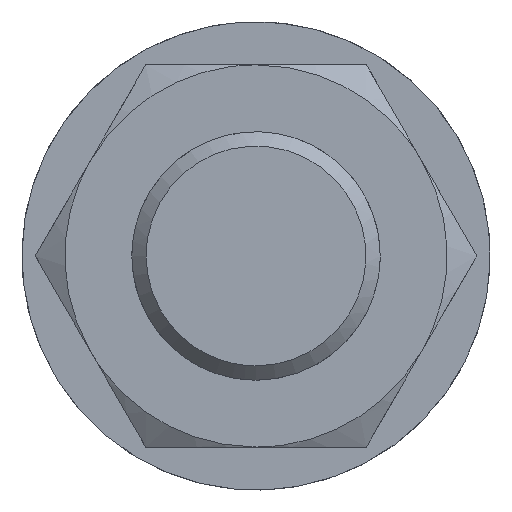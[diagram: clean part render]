
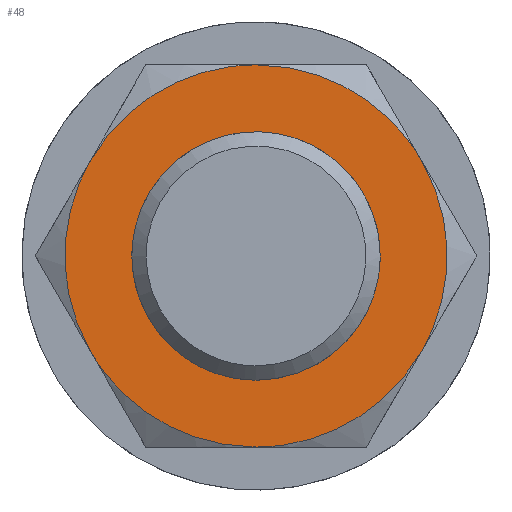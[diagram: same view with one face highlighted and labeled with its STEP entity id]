
A CAD part, left-side view. The second image highlights one B-rep face of the part: STEP entity #48.
In plain terms, the highlighted planar face has unit normal (-1, 0, 0).
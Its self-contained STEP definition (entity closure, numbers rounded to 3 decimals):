
#39=FACE_BOUND('',#135,.T.);
#48=ADVANCED_FACE('',(#90,#39),#655,.T.);
#90=FACE_OUTER_BOUND('',#134,.T.);
#134=EDGE_LOOP('',(#198,#199,#200,#201,#202,#203));
#135=EDGE_LOOP('',(#204,#205));
#198=ORIENTED_EDGE('',*,*,#399,.F.);
#199=ORIENTED_EDGE('',*,*,#401,.F.);
#200=ORIENTED_EDGE('',*,*,#402,.F.);
#201=ORIENTED_EDGE('',*,*,#400,.F.);
#202=ORIENTED_EDGE('',*,*,#398,.F.);
#203=ORIENTED_EDGE('',*,*,#397,.F.);
#204=ORIENTED_EDGE('',*,*,#387,.F.);
#205=ORIENTED_EDGE('',*,*,#385,.F.);
#385=EDGE_CURVE('',#600,#590,#510,.T.);
#387=EDGE_CURVE('',#590,#600,#511,.T.);
#397=EDGE_CURVE('',#594,#595,#519,.T.);
#398=EDGE_CURVE('',#595,#599,#520,.T.);
#399=EDGE_CURVE('',#596,#594,#521,.T.);
#400=EDGE_CURVE('',#599,#598,#522,.T.);
#401=EDGE_CURVE('',#597,#596,#523,.T.);
#402=EDGE_CURVE('',#598,#597,#524,.T.);
#510=(
BOUNDED_CURVE()
B_SPLINE_CURVE(2,(#1158,#1159,#1160,#1161,#1162),.UNSPECIFIED.,.F.,.F.)
B_SPLINE_CURVE_WITH_KNOTS((3,2,3),(81.681,122.522,163.363),
 .UNSPECIFIED.)
CURVE()
GEOMETRIC_REPRESENTATION_ITEM()
RATIONAL_B_SPLINE_CURVE((1.,0.707,1.,0.707,1.))
REPRESENTATION_ITEM('')
);
#511=(
BOUNDED_CURVE()
B_SPLINE_CURVE(2,(#1165,#1166,#1167,#1168,#1169),.UNSPECIFIED.,.F.,.F.)
B_SPLINE_CURVE_WITH_KNOTS((3,2,3),(0.,40.841,81.681),
 .UNSPECIFIED.)
CURVE()
GEOMETRIC_REPRESENTATION_ITEM()
RATIONAL_B_SPLINE_CURVE((1.,0.707,1.,0.707,1.))
REPRESENTATION_ITEM('')
);
#519=(
BOUNDED_CURVE()
B_SPLINE_CURVE(2,(#1207,#1208,#1209),.UNSPECIFIED.,.F.,.F.)
B_SPLINE_CURVE_WITH_KNOTS((3,3),(0.,41.888),.UNSPECIFIED.)
CURVE()
GEOMETRIC_REPRESENTATION_ITEM()
RATIONAL_B_SPLINE_CURVE((1.,0.866,1.))
REPRESENTATION_ITEM('')
);
#520=(
BOUNDED_CURVE()
B_SPLINE_CURVE(2,(#1210,#1211,#1212),.UNSPECIFIED.,.F.,.F.)
B_SPLINE_CURVE_WITH_KNOTS((3,3),(0.,41.888),.UNSPECIFIED.)
CURVE()
GEOMETRIC_REPRESENTATION_ITEM()
RATIONAL_B_SPLINE_CURVE((1.,0.866,1.))
REPRESENTATION_ITEM('')
);
#521=(
BOUNDED_CURVE()
B_SPLINE_CURVE(2,(#1213,#1214,#1215),.UNSPECIFIED.,.F.,.F.)
B_SPLINE_CURVE_WITH_KNOTS((3,3),(0.,41.888),.UNSPECIFIED.)
CURVE()
GEOMETRIC_REPRESENTATION_ITEM()
RATIONAL_B_SPLINE_CURVE((1.,0.866,1.))
REPRESENTATION_ITEM('')
);
#522=(
BOUNDED_CURVE()
B_SPLINE_CURVE(2,(#1216,#1217,#1218),.UNSPECIFIED.,.F.,.F.)
B_SPLINE_CURVE_WITH_KNOTS((3,3),(0.,41.888),.UNSPECIFIED.)
CURVE()
GEOMETRIC_REPRESENTATION_ITEM()
RATIONAL_B_SPLINE_CURVE((1.,0.866,1.))
REPRESENTATION_ITEM('')
);
#523=(
BOUNDED_CURVE()
B_SPLINE_CURVE(2,(#1219,#1220,#1221),.UNSPECIFIED.,.F.,.F.)
B_SPLINE_CURVE_WITH_KNOTS((3,3),(0.,41.888),.UNSPECIFIED.)
CURVE()
GEOMETRIC_REPRESENTATION_ITEM()
RATIONAL_B_SPLINE_CURVE((1.,0.866,1.))
REPRESENTATION_ITEM('')
);
#524=(
BOUNDED_CURVE()
B_SPLINE_CURVE(2,(#1222,#1223,#1224),.UNSPECIFIED.,.F.,.F.)
B_SPLINE_CURVE_WITH_KNOTS((3,3),(0.,41.888),.UNSPECIFIED.)
CURVE()
GEOMETRIC_REPRESENTATION_ITEM()
RATIONAL_B_SPLINE_CURVE((1.,0.866,1.))
REPRESENTATION_ITEM('')
);
#590=VERTEX_POINT('',#1126);
#594=VERTEX_POINT('',#1130);
#595=VERTEX_POINT('',#1131);
#596=VERTEX_POINT('',#1132);
#597=VERTEX_POINT('',#1133);
#598=VERTEX_POINT('',#1134);
#599=VERTEX_POINT('',#1135);
#600=VERTEX_POINT('',#1136);
#655=PLANE('',#769);
#769=AXIS2_PLACEMENT_3D('',#883,#795,$);
#795=DIRECTION('',(-1.,0.,0.));
#883=CARTESIAN_POINT('',(69.333,-55.546,48.12));
#1126=CARTESIAN_POINT('',(69.333,0.,-26.));
#1130=CARTESIAN_POINT('',(69.333,-34.641,20.));
#1131=CARTESIAN_POINT('',(69.333,-34.641,-20.));
#1132=CARTESIAN_POINT('',(69.333,0.,40.));
#1133=CARTESIAN_POINT('',(69.333,34.641,20.));
#1134=CARTESIAN_POINT('',(69.333,34.641,-20.));
#1135=CARTESIAN_POINT('',(69.333,0.,-40.));
#1136=CARTESIAN_POINT('',(69.333,0.,26.));
#1158=CARTESIAN_POINT('',(69.333,0.,26.));
#1159=CARTESIAN_POINT('',(69.333,26.,26.));
#1160=CARTESIAN_POINT('',(69.333,26.,0.));
#1161=CARTESIAN_POINT('',(69.333,26.,-26.));
#1162=CARTESIAN_POINT('',(69.333,0.,-26.));
#1165=CARTESIAN_POINT('',(69.333,0.,-26.));
#1166=CARTESIAN_POINT('',(69.333,-26.,-26.));
#1167=CARTESIAN_POINT('',(69.333,-26.,0.));
#1168=CARTESIAN_POINT('',(69.333,-26.,26.));
#1169=CARTESIAN_POINT('',(69.333,0.,26.));
#1207=CARTESIAN_POINT('',(69.333,-34.641,20.));
#1208=CARTESIAN_POINT('',(69.333,-46.188,0.));
#1209=CARTESIAN_POINT('',(69.333,-34.641,-20.));
#1210=CARTESIAN_POINT('',(69.333,-34.641,-20.));
#1211=CARTESIAN_POINT('',(69.333,-23.094,-40.));
#1212=CARTESIAN_POINT('',(69.333,0.,-40.));
#1213=CARTESIAN_POINT('',(69.333,0.,40.));
#1214=CARTESIAN_POINT('',(69.333,-23.094,40.));
#1215=CARTESIAN_POINT('',(69.333,-34.641,20.));
#1216=CARTESIAN_POINT('',(69.333,0.,-40.));
#1217=CARTESIAN_POINT('',(69.333,23.094,-40.));
#1218=CARTESIAN_POINT('',(69.333,34.641,-20.));
#1219=CARTESIAN_POINT('',(69.333,34.641,20.));
#1220=CARTESIAN_POINT('',(69.333,23.094,40.));
#1221=CARTESIAN_POINT('',(69.333,0.,40.));
#1222=CARTESIAN_POINT('',(69.333,34.641,-20.));
#1223=CARTESIAN_POINT('',(69.333,46.188,0.));
#1224=CARTESIAN_POINT('',(69.333,34.641,20.));
